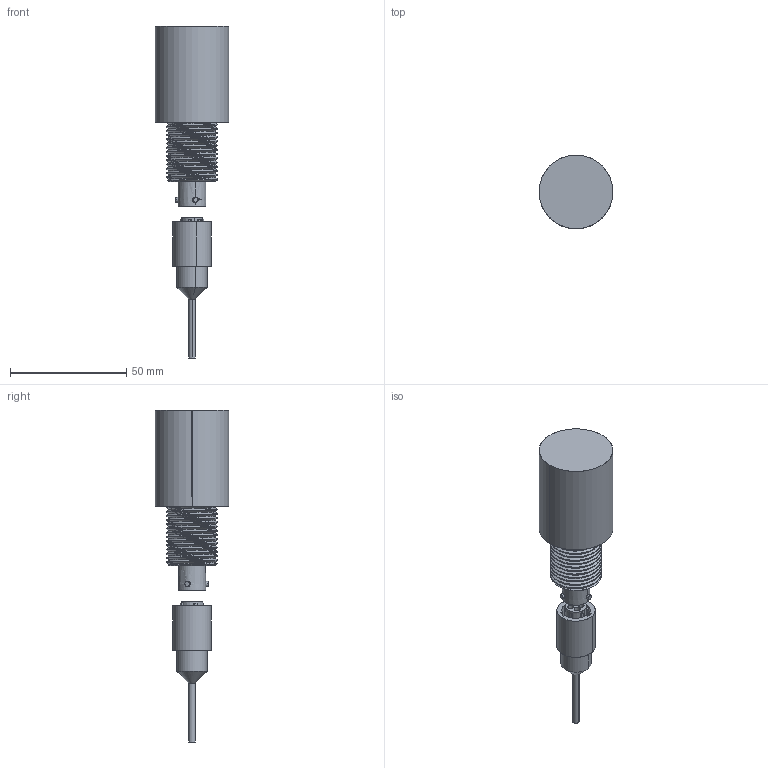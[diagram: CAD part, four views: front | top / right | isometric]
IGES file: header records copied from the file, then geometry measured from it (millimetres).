
Start section: SolidWorks IGES file using analytic representation for surfaces
Global section: file name: C:\Documents and Settings\Administrator\My Documents\EDI\3D\finished sensors\10CU.IGS; native system: SolidWorks 2008; preprocessor: SolidWorks 2008; author: Administrator; date: 100305.113617; units: millimetre
Bounding box: 31.75 x 31.75 x 143.04 mm (x, y, z)
Surface area: 12835.1 mm2 (no closed solid volume)
Topology: 0 solids, 0 shells, 152 faces, 3046 edges, 3046 vertices
Faces by surface type: revolution 78, bspline 74
